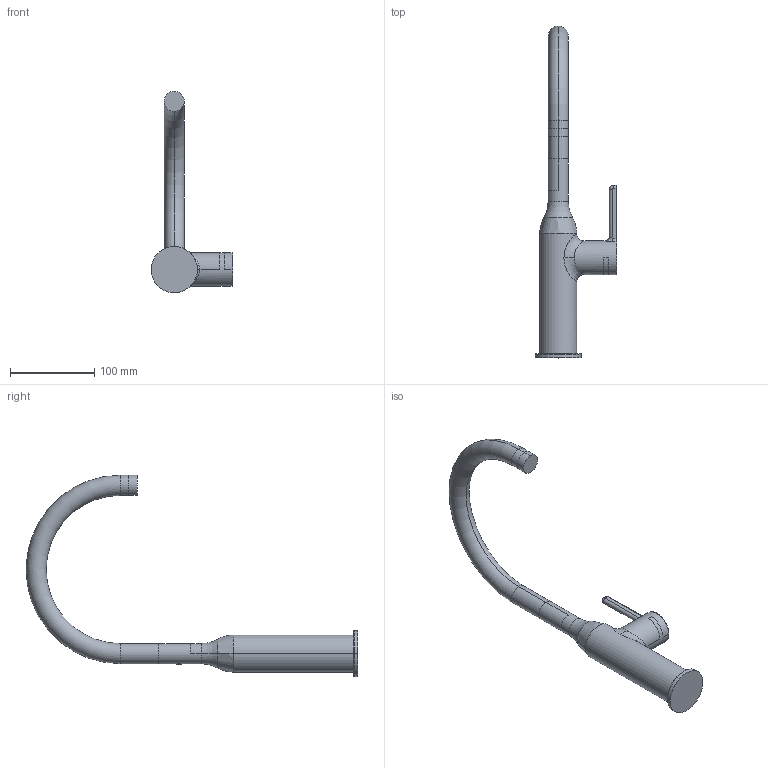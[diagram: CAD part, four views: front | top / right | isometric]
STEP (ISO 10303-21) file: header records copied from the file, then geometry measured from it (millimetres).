
FILE_DESCRIPTION((''),'2;1');
FILE_NAME('10_261_012_XXX','2012-01-05T',('ahf'),(''),'PRO/ENGINEER BY PARAMETRIC TECHNOLOGY CORPORATION, 2011080','PRO/ENGINEER BY PARAMETRIC TECHNOLOGY CORPORATION, 2011080','');
FILE_SCHEMA(('AUTOMOTIVE_DESIGN_CC2 { 1 2 10303 214 -1 1 5 2 }'));
Length unit declared in the file: millimetre
Products named in the file (1): 10_261_012_XXX
Bounding box: 97.26 x 394.25 x 239.5 mm (x, y, z)
Volume: 527064.6 mm3; surface area: 68976.6 mm2
Topology: 1 solids, 1 shells, 64 faces, 152 edges, 95 vertices
Faces by surface type: cylinder 26, plane 15, torus 12, bspline 11
Entity records: 3598 total; most frequent: CARTESIAN_POINT 1632, DIRECTION 321, ORIENTED_EDGE 304, EDGE_CURVE 152, AXIS2_PLACEMENT_3D 135, VERTEX_POINT 95, CIRCLE 82, EDGE_LOOP 69
